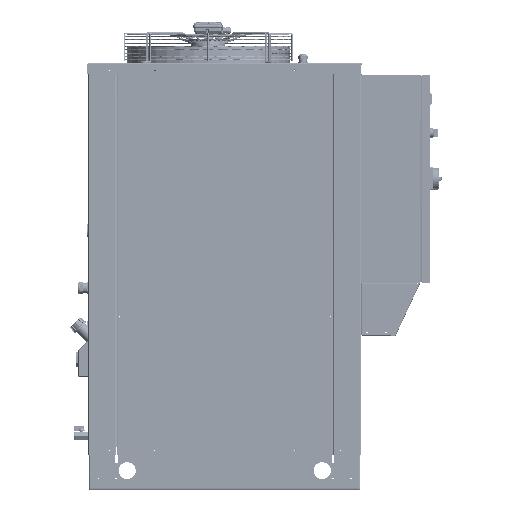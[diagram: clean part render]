
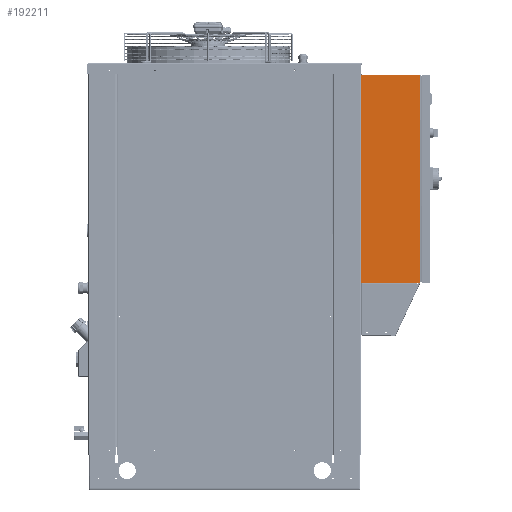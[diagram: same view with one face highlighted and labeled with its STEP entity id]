
A CAD part, top view. The second image highlights one B-rep face of the part: STEP entity #192211.
In plain terms, the highlighted planar face has unit normal (0, 0, 1) as drawn and (-1, 0, 0) by its records, which use the part's own axes.
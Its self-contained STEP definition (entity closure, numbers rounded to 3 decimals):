
#10749 = VECTOR ( 'NONE', #320806, 1000. ) ;
#11042 = CARTESIAN_POINT ( 'NONE',  ( -200., 300., -200. ) ) ;
#26846 = VECTOR ( 'NONE', #172940, 1000. ) ;
#34822 = EDGE_CURVE ( 'NONE', #264926, #375058, #263990, .T. ) ;
#53848 = VERTEX_POINT ( 'NONE', #375344 ) ;
#55965 = DIRECTION ( 'NONE',  ( 0., -1., 0. ) ) ;
#70201 = ORIENTED_EDGE ( 'NONE', *, *, #34822, .F. ) ;
#83829 = ORIENTED_EDGE ( 'NONE', *, *, #90285, .F. ) ;
#87264 = EDGE_CURVE ( 'NONE', #53848, #375058, #471977, .T. ) ;
#90285 = EDGE_CURVE ( 'NONE', #444146, #264926, #100320, .T. ) ;
#100320 = LINE ( 'NONE', #355379, #575519 ) ;
#107615 = EDGE_LOOP ( 'NONE', ( #70201, #83829, #568790, #290246 ) ) ;
#108810 = DIRECTION ( 'NONE',  ( 0., -1., 0. ) ) ;
#123133 = CARTESIAN_POINT ( 'NONE',  ( -200., -300., -28.805 ) ) ;
#172940 = DIRECTION ( 'NONE',  ( 0., -1., 0. ) ) ;
#192211 = ADVANCED_FACE ( 'NONE', ( #543175 ), #411250, .T. ) ;
#248016 = AXIS2_PLACEMENT_3D ( 'NONE', #11042, #323454, #55965 ) ;
#262653 = CARTESIAN_POINT ( 'NONE',  ( -200., 300., -200. ) ) ;
#263990 = LINE ( 'NONE', #376090, #515517 ) ;
#264926 = VERTEX_POINT ( 'NONE', #440547 ) ;
#290246 = ORIENTED_EDGE ( 'NONE', *, *, #87264, .T. ) ;
#320806 = DIRECTION ( 'NONE',  ( 0., 0., 1. ) ) ;
#323454 = DIRECTION ( 'NONE',  ( -1., 0., 0. ) ) ;
#355379 = CARTESIAN_POINT ( 'NONE',  ( -200., 300., -200. ) ) ;
#370251 = EDGE_CURVE ( 'NONE', #444146, #53848, #383127, .T. ) ;
#375058 = VERTEX_POINT ( 'NONE', #123133 ) ;
#375344 = CARTESIAN_POINT ( 'NONE',  ( -200., -300., -200. ) ) ;
#376090 = CARTESIAN_POINT ( 'NONE',  ( -200., 316.971, -28.805 ) ) ;
#383127 = LINE ( 'NONE', #262653, #26846 ) ;
#411250 = PLANE ( 'NONE',  #248016 ) ;
#440547 = CARTESIAN_POINT ( 'NONE',  ( -200., 300., -28.805 ) ) ;
#444146 = VERTEX_POINT ( 'NONE', #483345 ) ;
#445259 = DIRECTION ( 'NONE',  ( 0., 0., 1. ) ) ;
#471977 = LINE ( 'NONE', #543510, #10749 ) ;
#483345 = CARTESIAN_POINT ( 'NONE',  ( -200., 300., -200. ) ) ;
#515517 = VECTOR ( 'NONE', #108810, 1000. ) ;
#543175 = FACE_OUTER_BOUND ( 'NONE', #107615, .T. ) ;
#543510 = CARTESIAN_POINT ( 'NONE',  ( -200., -300., -200. ) ) ;
#568790 = ORIENTED_EDGE ( 'NONE', *, *, #370251, .T. ) ;
#575519 = VECTOR ( 'NONE', #445259, 1000. ) ;
